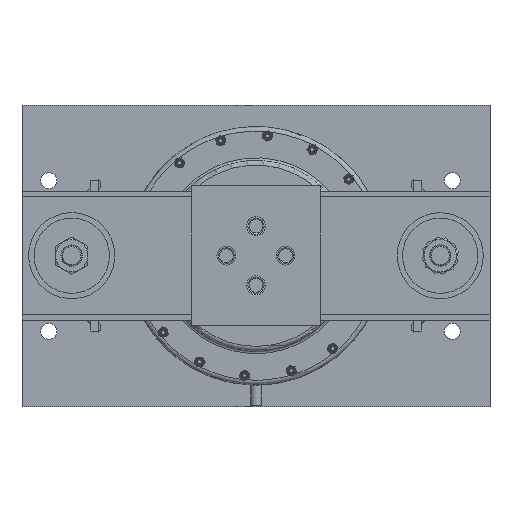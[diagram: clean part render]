
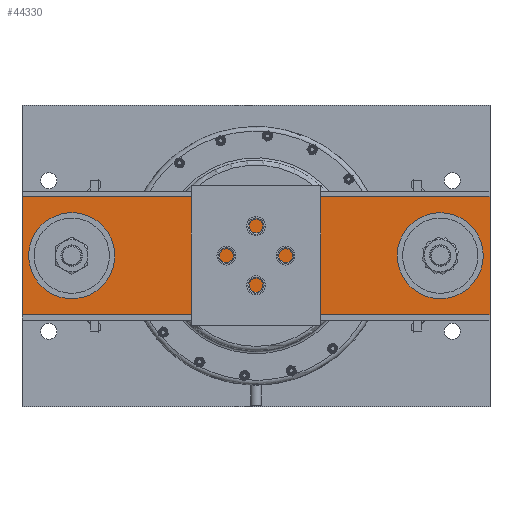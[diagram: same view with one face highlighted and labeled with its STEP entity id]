
A CAD part, top view. The second image highlights one B-rep face of the part: STEP entity #44330.
In plain terms, the highlighted planar face has unit normal (0, 0, 1).
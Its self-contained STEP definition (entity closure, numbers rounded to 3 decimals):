
#3377=LINE('',#78260,#6141);
#3378=LINE('',#78262,#6142);
#3379=LINE('',#78264,#6143);
#3380=LINE('',#78265,#6144);
#6141=VECTOR('',#60799,5.5);
#6142=VECTOR('',#60800,21.75);
#6143=VECTOR('',#60801,5.5);
#6144=VECTOR('',#60802,21.75);
#8654=PLANE('',#49017);
#9803=FACE_BOUND('',#15472,.T.);
#9804=FACE_BOUND('',#15473,.T.);
#9805=FACE_BOUND('',#15474,.T.);
#12302=FACE_OUTER_BOUND('',#15471,.T.);
#15471=EDGE_LOOP('',(#38607,#38608,#38609,#38610));
#15472=EDGE_LOOP('',(#38611));
#15473=EDGE_LOOP('',(#38612));
#15474=EDGE_LOOP('',(#38613));
#17623=CIRCLE('',#49018,2.);
#17624=CIRCLE('',#49019,0.525);
#17625=CIRCLE('',#49020,2.);
#21537=VERTEX_POINT('',#78258);
#21538=VERTEX_POINT('',#78259);
#21539=VERTEX_POINT('',#78261);
#21540=VERTEX_POINT('',#78263);
#21541=VERTEX_POINT('',#78266);
#21542=VERTEX_POINT('',#78268);
#21543=VERTEX_POINT('',#78270);
#27384=EDGE_CURVE('',#21537,#21538,#3377,.T.);
#27385=EDGE_CURVE('',#21539,#21538,#3378,.T.);
#27386=EDGE_CURVE('',#21539,#21540,#3379,.T.);
#27387=EDGE_CURVE('',#21540,#21537,#3380,.T.);
#27388=EDGE_CURVE('',#21541,#21541,#17623,.T.);
#27389=EDGE_CURVE('',#21542,#21542,#17624,.T.);
#27390=EDGE_CURVE('',#21543,#21543,#17625,.T.);
#38607=ORIENTED_EDGE('',*,*,#27384,.T.);
#38608=ORIENTED_EDGE('',*,*,#27385,.F.);
#38609=ORIENTED_EDGE('',*,*,#27386,.T.);
#38610=ORIENTED_EDGE('',*,*,#27387,.T.);
#38611=ORIENTED_EDGE('',*,*,#27388,.T.);
#38612=ORIENTED_EDGE('',*,*,#27389,.T.);
#38613=ORIENTED_EDGE('',*,*,#27390,.T.);
#44330=ADVANCED_FACE('',(#12302,#9803,#9804,#9805),#8654,.T.);
#49017=AXIS2_PLACEMENT_3D('',#78257,#60797,#60798);
#49018=AXIS2_PLACEMENT_3D('',#78267,#60803,#60804);
#49019=AXIS2_PLACEMENT_3D('',#78269,#60805,#60806);
#49020=AXIS2_PLACEMENT_3D('',#78271,#60807,#60808);
#60797=DIRECTION('center_axis',(0.,0.,
1.));
#60798=DIRECTION('ref_axis',(1.,0.,0.));
#60799=DIRECTION('',(0.,1.,0.));
#60800=DIRECTION('',(1.,0.,0.));
#60801=DIRECTION('',(0.,-1.,0.));
#60802=DIRECTION('',(1.,0.,0.));
#60803=DIRECTION('center_axis',(0.,0.,
-1.));
#60804=DIRECTION('ref_axis',(0.63,-0.776,0.));
#60805=DIRECTION('center_axis',(0.,0.,
-1.));
#60806=DIRECTION('ref_axis',(0.999,-0.053,0.));
#60807=DIRECTION('center_axis',(0.,0.,
-1.));
#60808=DIRECTION('ref_axis',(0.695,-0.719,0.));
#78257=CARTESIAN_POINT('Origin',(0.,-2.75,8.));
#78258=CARTESIAN_POINT('',(10.875,-2.75,8.));
#78259=CARTESIAN_POINT('',(10.875,2.75,8.));
#78260=CARTESIAN_POINT('',(10.875,2.75,8.));
#78261=CARTESIAN_POINT('',(-10.875,2.75,8.));
#78262=CARTESIAN_POINT('',(0.,2.75,8.));
#78263=CARTESIAN_POINT('',(-10.875,-2.75,8.));
#78264=CARTESIAN_POINT('',(-10.875,2.75,8.));
#78265=CARTESIAN_POINT('',(0.,-2.75,8.));
#78266=CARTESIAN_POINT('',(9.823,-1.553,8.));
#78267=CARTESIAN_POINT('Origin',(8.562,0.,
8.));
#78268=CARTESIAN_POINT('',(-0.524,0.028,8.));
#78269=CARTESIAN_POINT('Origin',(0.,0.,
8.));
#78270=CARTESIAN_POINT('',(-7.172,-1.438,8.));
#78271=CARTESIAN_POINT('Origin',(-8.563,0.,8.));
